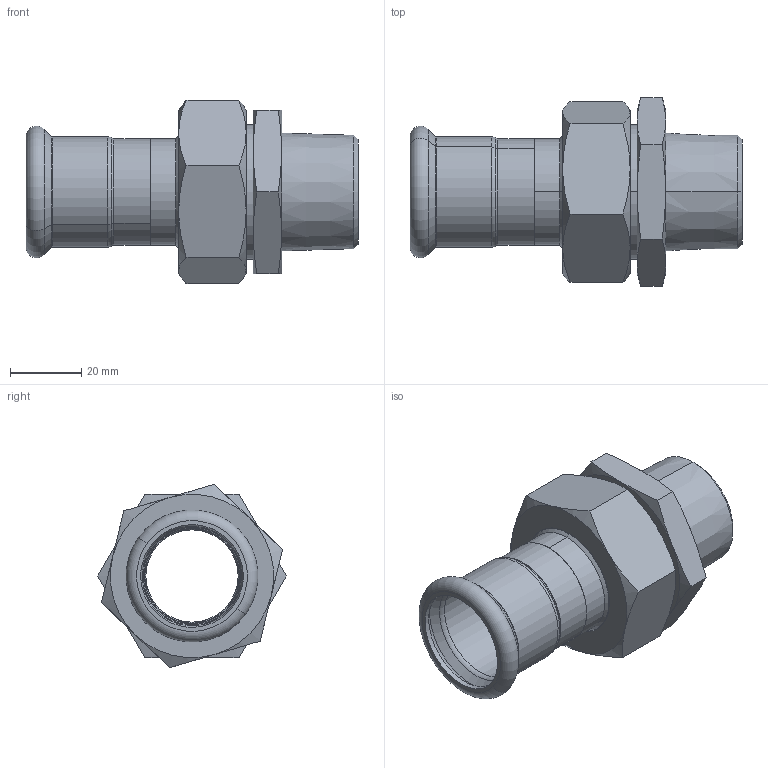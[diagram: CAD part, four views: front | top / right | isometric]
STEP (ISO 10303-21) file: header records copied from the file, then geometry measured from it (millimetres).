
FILE_DESCRIPTION (( 'STEP AP203' ), '1' );
FILE_NAME ('GDA5438.STEP', '2019-01-21T05:24:07', ( '' ), ( '' ), 'SwSTEP 2.0', 'SolidWorks 2015', '' );
FILE_SCHEMA (( 'CONFIG_CONTROL_DESIGN' ));
Length unit declared in the file: millimetre
Products named in the file (6): T-ｉ-01-28; 28｡ﾁ1?; 1.25; 蛌遙諉芛1.2-1; ZL-Ⅰ-01×1?; GDA5438
Assembly tree (5 placements, depth 2):
  GDA5438
    1.25
    28｡ﾁ1?
    T-ｉ-01-28
    ZL-Ⅰ-01×1?
    蛌遙諉芛1.2-1
Bounding box: 93.5 x 53.12 x 51.62 mm (x, y, z)
Volume: 49936.3 mm3; surface area: 31217 mm2
Topology: 5 solids, 5 shells, 124 faces, 256 edges, 148 vertices
Faces by surface type: cone 48, cylinder 32, plane 28, torus 16
Entity records: 4100 total; most frequent: CARTESIAN_POINT 824, DIRECTION 612, ORIENTED_EDGE 512, AXIS2_PLACEMENT_3D 272, EDGE_CURVE 256, VERTEX_POINT 148, EDGE_LOOP 140, CIRCLE 140
